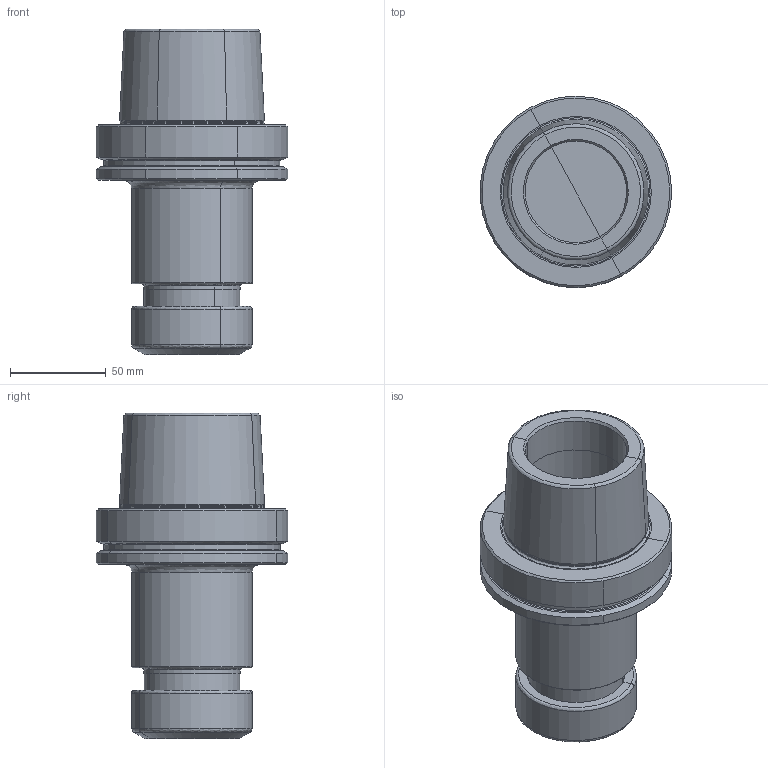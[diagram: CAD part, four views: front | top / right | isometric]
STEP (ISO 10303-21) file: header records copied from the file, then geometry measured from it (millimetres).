
FILE_DESCRIPTION(('CATIA V5 STEP','CAx-IF Rec.Pracs.--- Model Styling and Organization---1.2---2011-12-15'),'2;1');
FILE_NAME('\\nas01\drv1\utils\eitdev\rte\eit\transmagicconvert\db\out\635923388123766287\4561016 L.stp','2016-02-29T08:33:46+00:00',('none'),('none'),'CATIA Version 5 Release 21 SP 5 (IN-10)','CATIA V5 STEP AP214','none');
FILE_SCHEMA(('AUTOMOTIVE_DESIGN { 1 0 10303 214 1 1 1 1 }'));
Length unit declared in the file: millimetre
Products named in the file (1): HSK A 100 ER40X120
Bounding box: 99.82 x 99.99 x 170.03 mm (x, y, z)
Volume: 491233.4 mm3; surface area: 74459 mm2
Topology: 1 solids, 1 shells, 123 faces, 248 edges, 127 vertices
Faces by surface type: revolution 99, plane 24
Entity records: 3846 total; most frequent: CARTESIAN_POINT 1576, ORIENTED_EDGE 496, DIRECTION 278, EDGE_CURVE 248, B_SPLINE_CURVE_WITH_KNOTS 198, AXIS2_PLACEMENT_3D 143, CIRCLE 127, VERTEX_POINT 127
